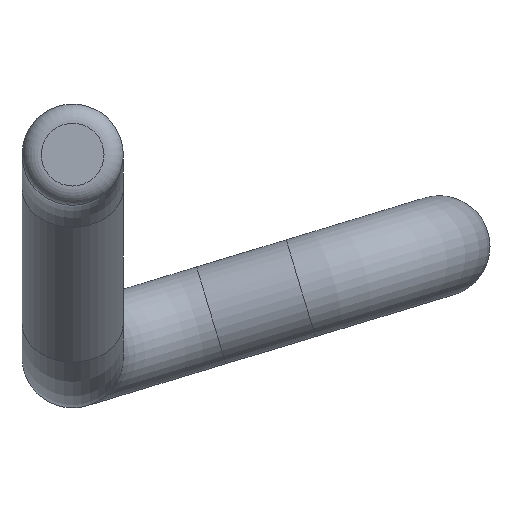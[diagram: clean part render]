
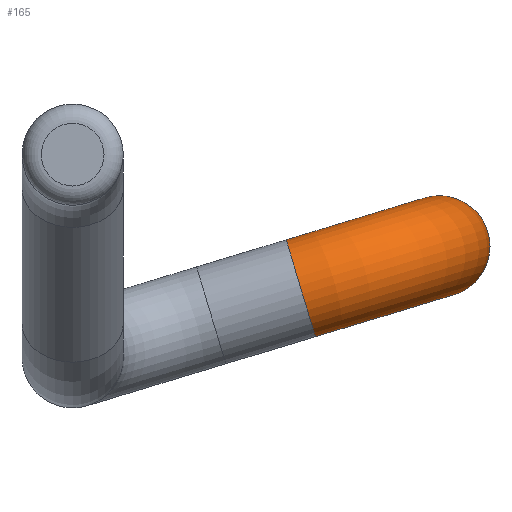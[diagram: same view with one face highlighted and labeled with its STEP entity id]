
A CAD part, front view. The second image highlights one B-rep face of the part: STEP entity #165.
In plain terms, the highlighted toroidal (fillet/blend) face has major radius 3 mm and minor radius 1.05 mm.
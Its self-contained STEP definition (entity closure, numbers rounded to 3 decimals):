
#24 = VERTEX_POINT('',#25);
#25 = CARTESIAN_POINT('',(-19.8,25.,-7.65));
#32 = CYLINDRICAL_SURFACE('',#33,1.05);
#33 = AXIS2_PLACEMENT_3D('',#34,#35,#36);
#34 = CARTESIAN_POINT('',(-19.8,42.,-6.6));
#35 = DIRECTION('',(0.,-1.,0.));
#36 = DIRECTION('',(0.,0.,-1.));
#51 = EDGE_CURVE('',#24,#24,#52,.T.);
#52 = SURFACE_CURVE('',#53,(#58,#65),.PCURVE_S1.);
#53 = CIRCLE('',#54,1.05);
#54 = AXIS2_PLACEMENT_3D('',#55,#56,#57);
#55 = CARTESIAN_POINT('',(-19.8,25.,-6.6));
#56 = DIRECTION('',(0.,-1.,0.));
#57 = DIRECTION('',(0.,0.,-1.));
#58 = PCURVE('',#32,#59);
#59 = DEFINITIONAL_REPRESENTATION('',(#60),#64);
#60 = LINE('',#61,#62);
#61 = CARTESIAN_POINT('',(0.,17.));
#62 = VECTOR('',#63,1.);
#63 = DIRECTION('',(1.,0.));
#64 = ( GEOMETRIC_REPRESENTATION_CONTEXT(2) 
PARAMETRIC_REPRESENTATION_CONTEXT() REPRESENTATION_CONTEXT('2D SPACE',''
  ) );
#65 = PCURVE('',#66,#71);
#66 = TOROIDAL_SURFACE('',#67,3.,1.05);
#67 = AXIS2_PLACEMENT_3D('',#68,#69,#70);
#68 = CARTESIAN_POINT('',(-22.671,25.,-7.469));
#69 = DIRECTION('',(0.29,0.,-0.957));
#70 = DIRECTION('',(0.957,0.,0.29));
#71 = DEFINITIONAL_REPRESENTATION('',(#72),#76);
#72 = LINE('',#73,#74);
#73 = CARTESIAN_POINT('',(0.,8.148));
#74 = VECTOR('',#75,1.);
#75 = DIRECTION('',(-0.,-1.));
#76 = ( GEOMETRIC_REPRESENTATION_CONTEXT(2) 
PARAMETRIC_REPRESENTATION_CONTEXT() REPRESENTATION_CONTEXT('2D SPACE',''
  ) );
#165 = ADVANCED_FACE('',(#166),#66,.T.);
#166 = FACE_BOUND('',#167,.T.);
#167 = EDGE_LOOP('',(#168,#192,#219,#220));
#168 = ORIENTED_EDGE('',*,*,#169,.T.);
#169 = EDGE_CURVE('',#24,#170,#172,.T.);
#170 = VERTEX_POINT('',#171);
#171 = CARTESIAN_POINT('',(-22.38,22.304,
    -8.431));
#172 = SEAM_CURVE('',#173,(#178,#185),.PCURVE_S1.);
#173 = CIRCLE('',#174,2.696);
#174 = AXIS2_PLACEMENT_3D('',#175,#176,#177);
#175 = CARTESIAN_POINT('',(-22.38,25.,-8.431));
#176 = DIRECTION('',(0.29,0.,-0.957));
#177 = DIRECTION('',(0.957,0.,0.29));
#178 = PCURVE('',#66,#179);
#179 = DEFINITIONAL_REPRESENTATION('',(#180),#184);
#180 = LINE('',#181,#182);
#181 = CARTESIAN_POINT('',(0.,1.865));
#182 = VECTOR('',#183,1.);
#183 = DIRECTION('',(1.,0.));
#184 = ( GEOMETRIC_REPRESENTATION_CONTEXT(2) 
PARAMETRIC_REPRESENTATION_CONTEXT() REPRESENTATION_CONTEXT('2D SPACE',''
  ) );
#185 = PCURVE('',#66,#186);
#186 = DEFINITIONAL_REPRESENTATION('',(#187),#191);
#187 = LINE('',#188,#189);
#188 = CARTESIAN_POINT('',(0.,8.148));
#189 = VECTOR('',#190,1.);
#190 = DIRECTION('',(1.,0.));
#191 = ( GEOMETRIC_REPRESENTATION_CONTEXT(2) 
PARAMETRIC_REPRESENTATION_CONTEXT() REPRESENTATION_CONTEXT('2D SPACE',''
  ) );
#192 = ORIENTED_EDGE('',*,*,#193,.T.);
#193 = EDGE_CURVE('',#170,#170,#194,.T.);
#194 = SURFACE_CURVE('',#195,(#200,#207),.PCURVE_S1.);
#195 = CIRCLE('',#196,1.05);
#196 = AXIS2_PLACEMENT_3D('',#197,#198,#199);
#197 = CARTESIAN_POINT('',(-22.671,22.,-7.469));
#198 = DIRECTION('',(0.957,0.,0.29));
#199 = DIRECTION('',(0.,-1.,0.));
#200 = PCURVE('',#66,#201);
#201 = DEFINITIONAL_REPRESENTATION('',(#202),#206);
#202 = LINE('',#203,#204);
#203 = CARTESIAN_POINT('',(1.571,0.));
#204 = VECTOR('',#205,1.);
#205 = DIRECTION('',(0.,1.));
#206 = ( GEOMETRIC_REPRESENTATION_CONTEXT(2) 
PARAMETRIC_REPRESENTATION_CONTEXT() REPRESENTATION_CONTEXT('2D SPACE',''
  ) );
#207 = PCURVE('',#208,#213);
#208 = CYLINDRICAL_SURFACE('',#209,1.05);
#209 = AXIS2_PLACEMENT_3D('',#210,#211,#212);
#210 = CARTESIAN_POINT('',(-22.671,22.,-7.469));
#211 = DIRECTION('',(-0.957,0.,-0.29));
#212 = DIRECTION('',(0.277,0.29,-0.916));
#213 = DEFINITIONAL_REPRESENTATION('',(#214),#218);
#214 = LINE('',#215,#216);
#215 = CARTESIAN_POINT('',(8.148,0.));
#216 = VECTOR('',#217,1.);
#217 = DIRECTION('',(-1.,-0.));
#218 = ( GEOMETRIC_REPRESENTATION_CONTEXT(2) 
PARAMETRIC_REPRESENTATION_CONTEXT() REPRESENTATION_CONTEXT('2D SPACE',''
  ) );
#219 = ORIENTED_EDGE('',*,*,#169,.F.);
#220 = ORIENTED_EDGE('',*,*,#51,.T.);
